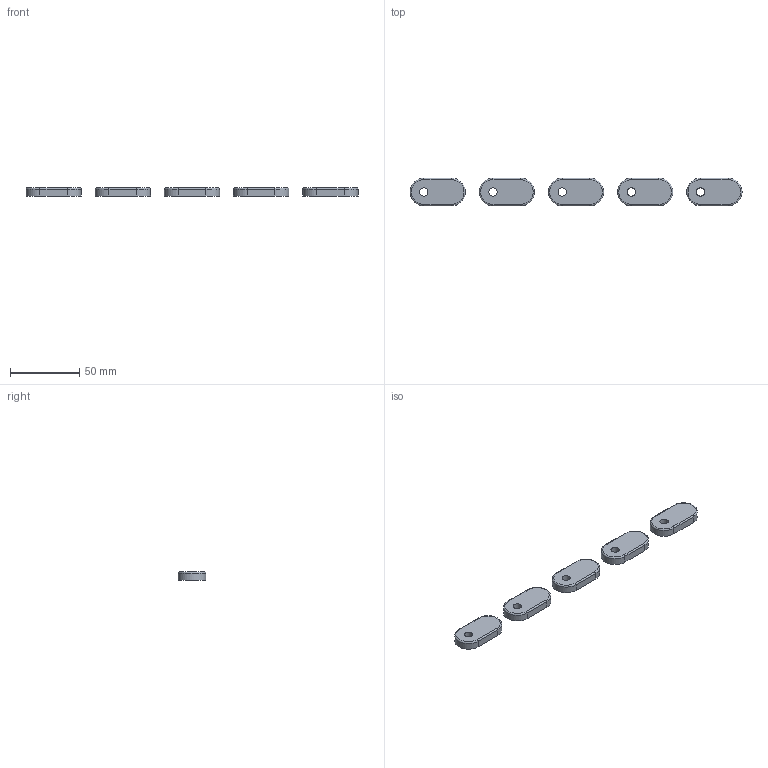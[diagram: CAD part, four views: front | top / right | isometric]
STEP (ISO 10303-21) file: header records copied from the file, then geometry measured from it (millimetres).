
FILE_DESCRIPTION(('Open CASCADE Model'),'2;1');
FILE_NAME('Open CASCADE Shape Model','2026-10-23T21:21:43',('Author'),( 'Open CASCADE'),'Open CASCADE STEP processor 8.0','Open CASCADE 8.0' ,'Unknown');
FILE_SCHEMA(('AUTOMOTIVE_DESIGN { 1 0 10303 214 1 1 1 1 }'));
Length unit declared in the file: millimetre
Products named in the file (6): Open CASCADE STEP translator 8.0 7; Open CASCADE STEP translator 8.0 7.1; Open CASCADE STEP translator 8.0 7.2; Open CASCADE STEP translator 8.0 7.3; Open CASCADE STEP translator 8.0 7.4; Open CASCADE STEP translator 8.0 7.5
Assembly tree (5 placements, depth 2):
  Open CASCADE STEP translator 8.0 7
    Open CASCADE STEP translator 8.0 7.1
    Open CASCADE STEP translator 8.0 7.2
    Open CASCADE STEP translator 8.0 7.3
    Open CASCADE STEP translator 8.0 7.4
    Open CASCADE STEP translator 8.0 7.5
Bounding box: 240 x 20 x 6 mm (x, y, z)
Volume: 20467.7 mm3; surface area: 10286.4 mm2
Topology: 5 solids, 5 shells, 55 faces, 115 edges, 70 vertices
Faces by surface type: cylinder 25, plane 20, torus 10
Full cylindrical faces by diameter (mm): 6 x5
Entity records: 3076 total; most frequent: DIRECTION 527, CARTESIAN_POINT 476, LINE 255, VECTOR 255, ORIENTED_EDGE 230, PCURVE 230, DEFINITIONAL_REPRESENTATION 230, AXIS2_PLACEMENT_3D 121
